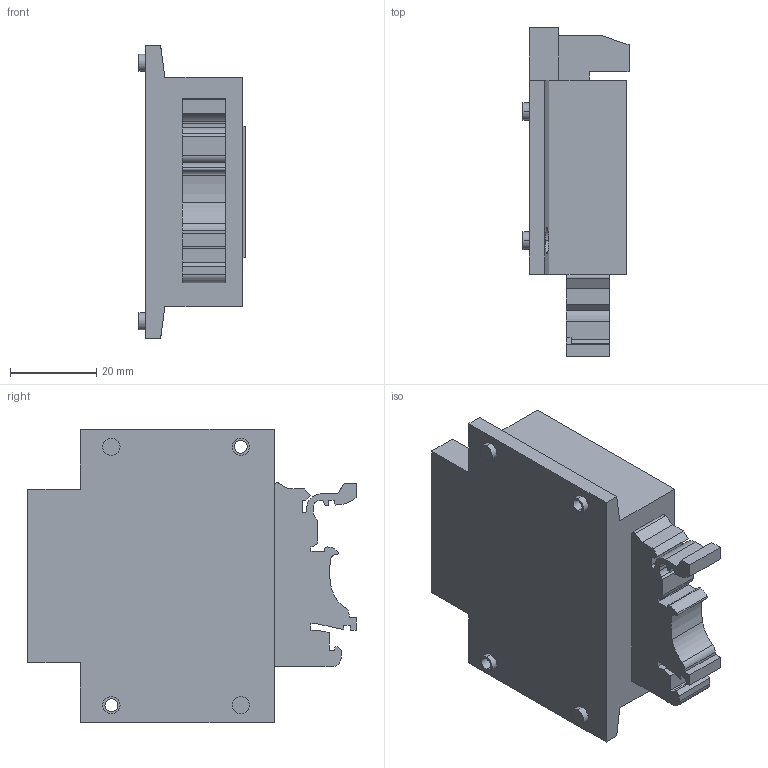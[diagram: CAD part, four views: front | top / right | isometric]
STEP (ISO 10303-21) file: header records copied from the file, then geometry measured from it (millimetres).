
FILE_DESCRIPTION((''),'2;1');
FILE_NAME('535742_ASM','2018-02-07T',('Putzk'),('SEDLBAUER EKS GmbH'),'PRO/ENGINEER BY PARAMETRIC TECHNOLOGY CORPORATION, 2017170','PRO/ENGINEER BY PARAMETRIC TECHNOLOGY CORPORATION, 2017170','');
FILE_SCHEMA(('CONFIG_CONTROL_DESIGN'));
Length unit declared in the file: millimetre
Products named in the file (3): 535742; 535767; 535742_ASM
Assembly tree (2 placements, depth 2):
  535742_ASM
    535742
    535767
Bounding box: 24.6 x 76.2 x 68 mm (x, y, z)
Volume: 68318.8 mm3; surface area: 17185.4 mm2
Topology: 2 solids, 2 shells, 169 faces, 447 edges, 300 vertices
Faces by surface type: plane 117, cylinder 52
Entity records: 7779 total; most frequent: CARTESIAN_POINT 1133, DIRECTION 899, ORIENTED_EDGE 894, PRESENTATION_STYLE_ASSIGNMENT 538, STYLED_ITEM 530, CURVE_STYLE 447, EDGE_CURVE 447, VECTOR 335
